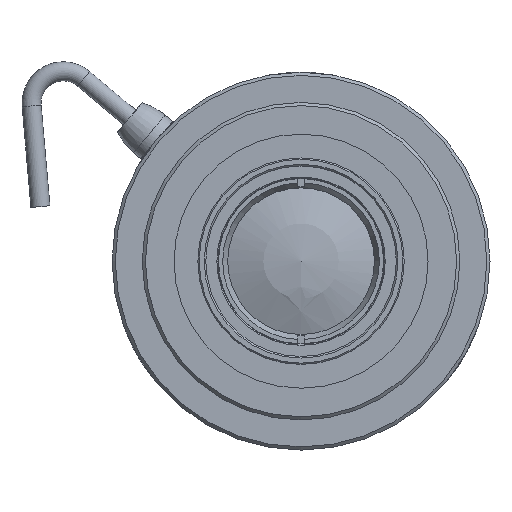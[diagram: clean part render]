
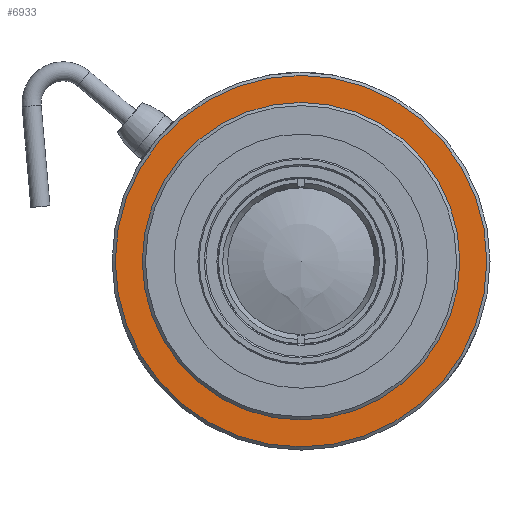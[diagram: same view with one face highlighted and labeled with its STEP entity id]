
A CAD part, front view. The second image highlights one B-rep face of the part: STEP entity #6933.
In plain terms, the highlighted planar face has unit normal (0, -1, 0).
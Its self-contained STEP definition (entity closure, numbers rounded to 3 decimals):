
#1254=PLANE('',#7366);
#2445=ORIENTED_EDGE('',*,*,#3133,.F.);
#2446=ORIENTED_EDGE('',*,*,#3132,.T.);
#3132=EDGE_CURVE('',#3593,#3593,#3747,.T.);
#3133=EDGE_CURVE('',#3594,#3594,#3748,.T.);
#3593=VERTEX_POINT('',#10112);
#3594=VERTEX_POINT('',#10115);
#3747=CIRCLE('',#7365,25.);
#3748=CIRCLE('',#7367,29.25);
#4118=EDGE_LOOP('',(#2445));
#4119=EDGE_LOOP('',(#2446));
#4524=FACE_BOUND('',#4118,.T.);
#4525=FACE_BOUND('',#4119,.T.);
#6933=ADVANCED_FACE('',(#4524,#4525),#1254,.F.);
#7365=AXIS2_PLACEMENT_3D('',#10111,#8662,#8663);
#7366=AXIS2_PLACEMENT_3D('',#10113,#8664,#8665);
#7367=AXIS2_PLACEMENT_3D('',#10114,#8666,#8667);
#8662=DIRECTION('',(0.,1.,0.));
#8663=DIRECTION('',(0.,0.,1.));
#8664=DIRECTION('',(0.,1.,0.));
#8665=DIRECTION('',(0.,0.,1.));
#8666=DIRECTION('',(0.,1.,0.));
#8667=DIRECTION('',(0.,0.,1.));
#10111=CARTESIAN_POINT('',(0.,-68.226,0.));
#10112=CARTESIAN_POINT('',(0.,-68.226,25.));
#10113=CARTESIAN_POINT('',(0.,-68.226,29.75));
#10114=CARTESIAN_POINT('',(0.,-68.226,0.));
#10115=CARTESIAN_POINT('',(0.,-68.226,29.25));
